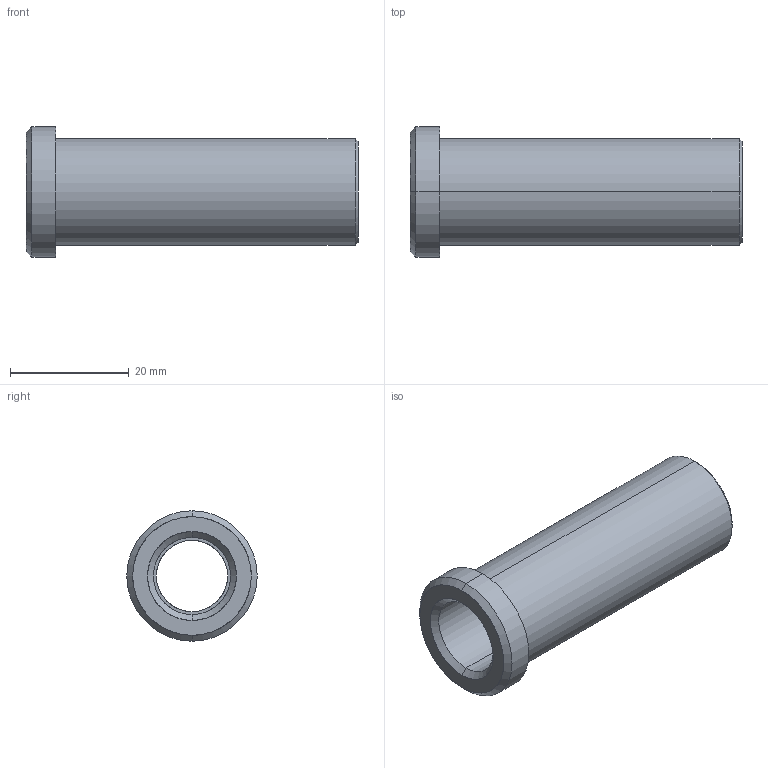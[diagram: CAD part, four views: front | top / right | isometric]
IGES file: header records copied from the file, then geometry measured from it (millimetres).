
Start section: START RECORD GO HERE.
Global section: file name: 353-12X56.igs; native system: DASSAULT SYSTEMES CATIA V5 R20 - www.3ds.com; preprocessor: CATIA Version 5 Release 20 ; author: Utente; organization: NB04-ASUS; date: 20210421.142002; units: millimetre
Bounding box: 56 x 22 x 22 mm (x, y, z)
Surface area: 5878.3 mm2 (no closed solid volume)
Topology: 0 solids, 0 shells, 20 faces, 128 edges, 128 vertices
Faces by surface type: revolution 16, plane 4
